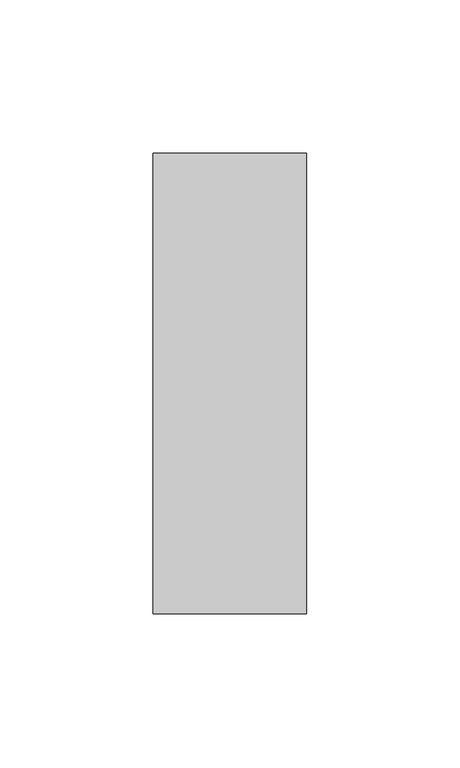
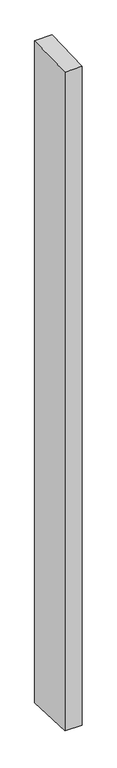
"""IFC4 building model written with IfcOpenShell, lengths in millimetres: member geometry, Прямоугольный импост : 50 x 150 мм."""

import ifcopenshell
import ifcopenshell.guid

model = None  # the IFC model being written
_history = None  # IfcOwnerHistory: only IFC2X3 demands one
_inside = {}  # id of a spatial element -> (the spatial element, [elements in it])
_under = {}  # id of a project, library or spatial element -> (it, [spatial elements below it])
_declared = {}  # id of a project -> (the project, [libraries it declares])
_typed = {}  # id of a type object -> (the type object, [elements of that type])
_made_of = {}  # id of a material, layer set ... -> (it, [elements and type objects made of it])


def new_model(schema):
    """Start an empty IFC model of exactly this schema.

    Asked for "IFC4X3", IfcOpenShell would pick the latest addendum, in which some entities
    have other attributes; the version numbers below select the first issue.
    IFC2X3 requires an IfcOwnerHistory on every rooted entity: one is made here for all.
    """
    global model, _history
    if schema == "IFC4X3":
        model = ifcopenshell.file(schema_version=(4, 3, 0, 0))
    else:
        model = ifcopenshell.file(schema=schema)
    _inside.clear()
    _under.clear()
    _declared.clear()
    _typed.clear()
    _made_of.clear()
    _history = None
    if model.schema == "IFC2X3":
        org = make("IfcOrganization", Name="unknown")
        user = make(
            "IfcPersonAndOrganization",
            ThePerson=make("IfcPerson", FamilyName="unknown"),
            TheOrganization=org,
        )
        app = make(
            "IfcApplication",
            ApplicationDeveloper=org,
            Version="unknown",
            ApplicationFullName="unknown",
            ApplicationIdentifier="unknown",
        )
        _history = make(
            "IfcOwnerHistory",
            OwningUser=user,
            OwningApplication=app,
            ChangeAction="ADDED",
            CreationDate=0,
        )
    return model


def make(cls, **values):
    """One entity of the class cls with the attributes given. An attribute that is None is left unset."""
    return model.create_entity(
        cls, **{name: value for name, value in values.items() if value is not None}
    )


def rooted(cls, **values):
    """An entity with a GlobalId (a new one), such as an element, a storey or a relation."""
    return make(cls, GlobalId=ifcopenshell.guid.new(), OwnerHistory=_history, **values)


def si_unit(unit_type, name, prefix=None):
    """IfcSIUnit, for example si_unit("LENGTHUNIT", "METRE", prefix="MILLI")."""
    return make("IfcSIUnit", UnitType=unit_type, Prefix=prefix, Name=name)


def assignment(units):
    """IfcUnitAssignment: the units of a project."""
    return None if units is None else make("IfcUnitAssignment", Units=units)


def point(xyz):
    """IfcCartesianPoint."""
    return None if xyz is None else make("IfcCartesianPoint", Coordinates=xyz)


def direction(xyz):
    """IfcDirection."""
    return None if xyz is None else make("IfcDirection", DirectionRatios=xyz)


def frame(location, z_axis=None, x_axis=None):
    """IfcAxis2Placement3D, a coordinate frame: its origin and axes. An axis left out is left unset."""
    return make(
        "IfcAxis2Placement3D",
        Location=point(location),
        Axis=direction(z_axis),
        RefDirection=direction(x_axis),
    )


def origin():
    """The frame at (0, 0, 0) with its axes left unset."""
    return frame((0.0, 0.0, 0.0))


def place(relative_to, where):
    """IfcLocalPlacement: puts the frame where relative to a parent placement (None: the world)."""
    return make(
        "IfcLocalPlacement", PlacementRelTo=relative_to, RelativePlacement=where
    )


def context(
    kind, dimensions, precision=None, world=None, true_north=None, identifier=None
):
    """IfcGeometricRepresentationContext, for example the 3D "Model" context."""
    return make(
        "IfcGeometricRepresentationContext",
        ContextIdentifier=identifier,
        ContextType=kind,
        CoordinateSpaceDimension=dimensions,
        Precision=precision,
        WorldCoordinateSystem=world,
        TrueNorth=true_north,
    )


def project(units=None, contexts=None):
    """IfcProject with its units and contexts."""
    return rooted(
        "IfcProject",
        Name="project",
        RepresentationContexts=contexts,
        UnitsInContext=assignment(units),
    )


def spatial(cls, under=None, at=None, **own):
    """A site, building, storey or space (cls), placed at a placement, below another one or the project."""
    s = rooted(cls, ObjectPlacement=at, **own)
    if under is not None:
        _under.setdefault(under.id(), (under, []))[1].append(s)
    return s


def faces_of(points, faces, orient=None, outer=None):
    """IfcFace entities. A face is a list of loops; a loop is a list of indices into points, from 0.

    orient and outer hold one flag for each loop. By default every Orientation is true, the
    first loop of a face is its IfcFaceOuterBound and the others are IfcFaceBound.
    """
    made = []
    for i, loops in enumerate(faces):
        bounds = []
        for j, loop in enumerate(loops):
            is_outer = j == 0 if outer is None else outer[i][j]
            bounds.append(
                make(
                    "IfcFaceOuterBound" if is_outer else "IfcFaceBound",
                    Bound=make("IfcPolyLoop", Polygon=[points[k] for k in loop]),
                    Orientation=True if orient is None else orient[i][j],
                )
            )
        made.append(make("IfcFace", Bounds=bounds))
    return made


def faceted_brep(points, faces, orient=None, outer=None, voids=None):
    """IfcFacetedBrep: a solid bounded by flat faces; with voids (closed shells), ...WithVoids."""
    shared = [point(p) for p in points]
    hull = make("IfcClosedShell", CfsFaces=faces_of(shared, faces, orient, outer))
    if voids is None:
        return make("IfcFacetedBrep", Outer=hull)
    return make(
        "IfcFacetedBrepWithVoids",
        Outer=hull,
        Voids=[
            make(cls, CfsFaces=faces_of(shared, fs, o, b)) for cls, fs, o, b in voids
        ],
    )


def shape(context_of_items, identifier, shape_type, items):
    """IfcShapeRepresentation: the items that make up one representation, for example the "Body"."""
    return make(
        "IfcShapeRepresentation",
        ContextOfItems=context_of_items,
        RepresentationIdentifier=identifier,
        RepresentationType=shape_type,
        Items=items,
    )


def source(mapping_origin, context_of_items, identifier, shape_type, items):
    """IfcRepresentationMap: a shape defined once, which mapped items show again and again."""
    return make(
        "IfcRepresentationMap",
        MappingOrigin=mapping_origin,
        MappedRepresentation=shape(context_of_items, identifier, shape_type, items),
    )


def transform(
    local_origin,
    x_axis=None,
    y_axis=None,
    z_axis=None,
    scale=None,
    scale2=None,
    scale3=None,
    uniform=True,
):
    """IfcCartesianTransformationOperator3D, or its non-uniform kind. x_axis, y_axis, z_axis: its Axis1, 2, 3."""
    if uniform:
        return make(
            "IfcCartesianTransformationOperator3D",
            Axis1=direction(x_axis),
            Axis2=direction(y_axis),
            LocalOrigin=point(local_origin),
            Scale=scale,
            Axis3=direction(z_axis),
        )
    return make(
        "IfcCartesianTransformationOperator3DnonUniform",
        Axis1=direction(x_axis),
        Axis2=direction(y_axis),
        LocalOrigin=point(local_origin),
        Scale=scale,
        Axis3=direction(z_axis),
        Scale2=scale2,
        Scale3=scale3,
    )


def mapped(mapping_source, mapping_target):
    """IfcMappedItem: shows the shape of a source again, moved by a transform."""
    return make(
        "IfcMappedItem", MappingSource=mapping_source, MappingTarget=mapping_target
    )


def made_of(thing, what):
    """Note that an element or type object is made of a material, layer set ...; save() writes the relation."""
    if what is not None:
        _made_of.setdefault(what.id(), (what, []))[1].append(thing)
    return thing


def element(
    cls,
    number,
    at=None,
    inside=None,
    cuts=None,
    type_object=None,
    material=None,
    context=None,
    identifier="Body",
    shape_type=None,
    held_by="IfcProductDefinitionShape",
    body=None,
    shapes=None,
    **own,
):
    """One element of the class cls, such as IfcWall. Its Tag is "e" and its number.

    at: its placement. inside: the storey or other place that contains it. cuts: it is an
    opening in that element (IfcRelVoidsElement). A single representation is given by context,
    identifier, shape_type and body (its items); several are given by shapes. held_by: the class
    of the entity that holds the representations. save() writes the other relations.
    """
    e = rooted(cls, Tag="e%d" % number, ObjectPlacement=at, **own)
    if body is not None:
        shapes = [shape(context, identifier, shape_type, body)]
    if shapes is not None:
        e.Representation = make(held_by, Representations=shapes)
    if inside is not None:
        _inside.setdefault(inside.id(), (inside, []))[1].append(e)
    if cuts is not None:
        rooted(
            "IfcRelVoidsElement", RelatingBuildingElement=cuts, RelatedOpeningElement=e
        )
    if type_object is not None:
        _typed.setdefault(type_object.id(), (type_object, []))[1].append(e)
    return made_of(e, material)


def aggregate(whole, parts):
    """IfcRelAggregates: a whole, such as a stair, and the parts it consists of."""
    return rooted("IfcRelAggregates", RelatingObject=whole, RelatedObjects=parts)


def save(model, path):
    """Write the relations noted so far, then the file.

    IfcRelAggregates (storeys below a building ...), IfcRelContainedInSpatialStructure (elements
    in a storey), IfcRelDefinesByType, IfcRelAssociatesMaterial and IfcRelDeclares: one each for
    every whole, place, type object, material and project.
    """
    for whole, parts in _under.values():
        aggregate(whole, parts)
    for where, things in _inside.values():
        rooted(
            "IfcRelContainedInSpatialStructure",
            RelatedElements=things,
            RelatingStructure=where,
        )
    for kind, things in _typed.values():
        rooted("IfcRelDefinesByType", RelatedObjects=things, RelatingType=kind)
    for what, things in _made_of.values():
        rooted("IfcRelAssociatesMaterial", RelatedObjects=things, RelatingMaterial=what)
    for by, libraries in _declared.values():
        rooted("IfcRelDeclares", RelatingContext=by, RelatedDefinitions=libraries)
    model.write(path)


def member_ec335d38(model_context):
    return source(origin(), model_context, "Body", "Brep", [
        faceted_brep([(-25.0, 75.0, 1.6656336), (25.0, 75.0, 2.3819652), (25.0, 75.0, -2012.2805456), (-25.0, 75.0, -2011.4406585), (-25.0, -75.0, -2.3819652), (-25.0, -75.0, -2005.4402868), (25.0, -75.0, -1.6656336), (25.0, -75.0, -2006.2801739)], [[[0, 1, 2, 3]], [[4, 0, 3, 5]], [[6, 4, 5, 7]], [[1, 6, 7, 2]], [[1, 0, 4, 6]], [[2, 7, 5, 3]]]),
    ])


if __name__ == "__main__":
    model = new_model("IFC4")
    model_context = context("Model", 3, world=origin())
    ifc_project = project(units=[si_unit("LENGTHUNIT", "METRE", prefix="MILLI")], contexts=[model_context])
    site = spatial("IfcSite", under=ifc_project)
    building = spatial("IfcBuilding", under=site)
    placement = place(None, origin())
    member_shape = member_ec335d38(model_context)
    element("IfcMember", 1, ObjectType="Прямоугольный импост : 50 x 150 мм", at=placement, inside=building, context=model_context, shape_type="MappedRepresentation", body=[
        mapped(member_shape, transform((0.0, 0.0, 0.0), x_axis=(1.0, 0.0, 0.0), y_axis=(0.0, 1.0, 0.0), z_axis=(0.0, 0.0, 1.0))),
    ])
    save(model, "model.ifc")
